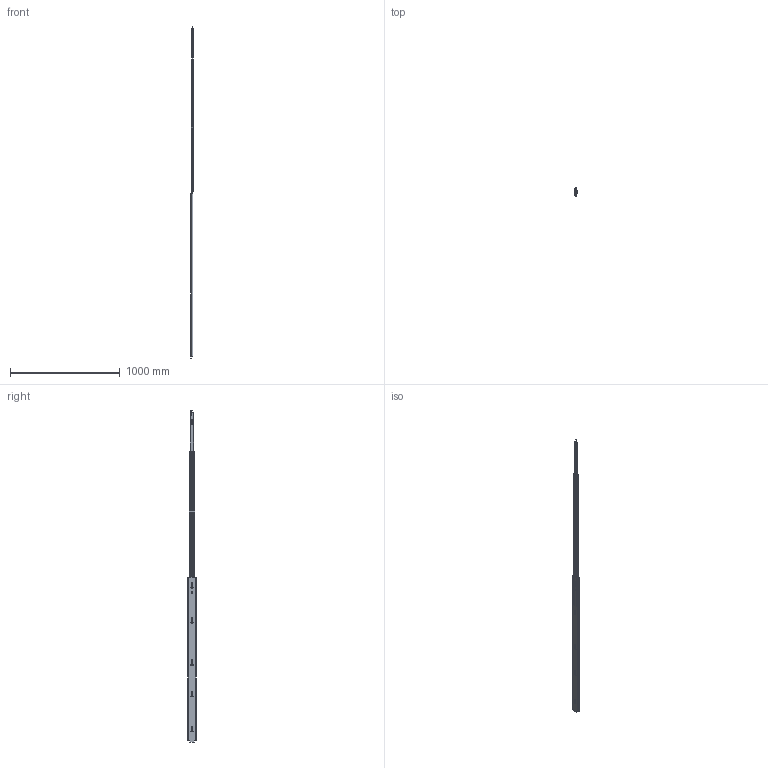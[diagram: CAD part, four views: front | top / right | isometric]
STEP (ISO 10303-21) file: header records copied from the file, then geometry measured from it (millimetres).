
FILE_DESCRIPTION (( 'STEP AP214' ), '1' );
FILE_NAME ('DSCHHD1500MML-OPEN.STEP', '2019-11-04T10:07:18', ( '' ), ( '' ), 'SwSTEP 2.0', 'SolidWorks 2017', '' );
FILE_SCHEMA (( 'AUTOMOTIVE_DESIGN' ));
Length unit declared in the file: millimetre
Products named in the file (5): DSCHHDL-2_1500; DSCHHDL-1_1500; DSCHHDL-3_1500; DSCHHD1500MML-OPEN; DSCHHDL-4
Assembly tree (4 placements, depth 2):
  DSCHHD1500MML-OPEN
    DSCHHDL-3_1500
    DSCHHDL-2_1500
    DSCHHDL-1_1500
    DSCHHDL-4
Bounding box: 19.4 x 75.28 x 3026.1 mm (x, y, z)
Volume: 776772.1 mm3; surface area: 797734.1 mm2
Topology: 4 solids, 4 shells, 870 faces, 2372 edges, 1572 vertices
Faces by surface type: plane 480, bspline 237, cylinder 145, torus 4, sphere 4
Entity records: 29512 total; most frequent: CARTESIAN_POINT 8246, ORIENTED_EDGE 4736, DIRECTION 3470, EDGE_CURVE 2368, VECTOR 1598, LINE 1598, VERTEX_POINT 1572, EDGE_LOOP 1012
